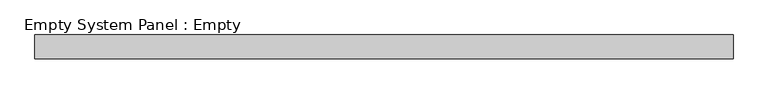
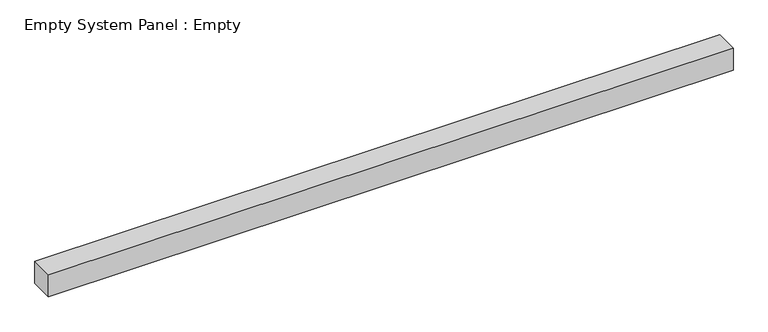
"""IFC4 building model written with IfcOpenShell, lengths in millimetres: plate geometry, Empty System Panel : Empty."""

import ifcopenshell
import ifcopenshell.guid

model = None  # the IFC model being written
_history = None  # IfcOwnerHistory: only IFC2X3 demands one
_inside = {}  # id of a spatial element -> (the spatial element, [elements in it])
_under = {}  # id of a project, library or spatial element -> (it, [spatial elements below it])
_declared = {}  # id of a project -> (the project, [libraries it declares])
_typed = {}  # id of a type object -> (the type object, [elements of that type])
_made_of = {}  # id of a material, layer set ... -> (it, [elements and type objects made of it])


def new_model(schema):
    """Start an empty IFC model of exactly this schema.

    Asked for "IFC4X3", IfcOpenShell would pick the latest addendum, in which some entities
    have other attributes; the version numbers below select the first issue.
    IFC2X3 requires an IfcOwnerHistory on every rooted entity: one is made here for all.
    """
    global model, _history
    if schema == "IFC4X3":
        model = ifcopenshell.file(schema_version=(4, 3, 0, 0))
    else:
        model = ifcopenshell.file(schema=schema)
    _inside.clear()
    _under.clear()
    _declared.clear()
    _typed.clear()
    _made_of.clear()
    _history = None
    if model.schema == "IFC2X3":
        org = make("IfcOrganization", Name="unknown")
        user = make(
            "IfcPersonAndOrganization",
            ThePerson=make("IfcPerson", FamilyName="unknown"),
            TheOrganization=org,
        )
        app = make(
            "IfcApplication",
            ApplicationDeveloper=org,
            Version="unknown",
            ApplicationFullName="unknown",
            ApplicationIdentifier="unknown",
        )
        _history = make(
            "IfcOwnerHistory",
            OwningUser=user,
            OwningApplication=app,
            ChangeAction="ADDED",
            CreationDate=0,
        )
    return model


def make(cls, **values):
    """One entity of the class cls with the attributes given. An attribute that is None is left unset."""
    return model.create_entity(
        cls, **{name: value for name, value in values.items() if value is not None}
    )


def rooted(cls, **values):
    """An entity with a GlobalId (a new one), such as an element, a storey or a relation."""
    return make(cls, GlobalId=ifcopenshell.guid.new(), OwnerHistory=_history, **values)


def si_unit(unit_type, name, prefix=None):
    """IfcSIUnit, for example si_unit("LENGTHUNIT", "METRE", prefix="MILLI")."""
    return make("IfcSIUnit", UnitType=unit_type, Prefix=prefix, Name=name)


def assignment(units):
    """IfcUnitAssignment: the units of a project."""
    return None if units is None else make("IfcUnitAssignment", Units=units)


def point(xyz):
    """IfcCartesianPoint."""
    return None if xyz is None else make("IfcCartesianPoint", Coordinates=xyz)


def direction(xyz):
    """IfcDirection."""
    return None if xyz is None else make("IfcDirection", DirectionRatios=xyz)


def frame(location, z_axis=None, x_axis=None):
    """IfcAxis2Placement3D, a coordinate frame: its origin and axes. An axis left out is left unset."""
    return make(
        "IfcAxis2Placement3D",
        Location=point(location),
        Axis=direction(z_axis),
        RefDirection=direction(x_axis),
    )


def origin():
    """The frame at (0, 0, 0) with its axes left unset."""
    return frame((0.0, 0.0, 0.0))


def origin_with_axes():
    """The frame at (0, 0, 0) with the z axis (0, 0, 1) and the x axis (1, 0, 0) written out."""
    return frame((0.0, 0.0, 0.0), z_axis=(0.0, 0.0, 1.0), x_axis=(1.0, 0.0, 0.0))


def place(relative_to, where):
    """IfcLocalPlacement: puts the frame where relative to a parent placement (None: the world)."""
    return make(
        "IfcLocalPlacement", PlacementRelTo=relative_to, RelativePlacement=where
    )


def context(
    kind, dimensions, precision=None, world=None, true_north=None, identifier=None
):
    """IfcGeometricRepresentationContext, for example the 3D "Model" context."""
    return make(
        "IfcGeometricRepresentationContext",
        ContextIdentifier=identifier,
        ContextType=kind,
        CoordinateSpaceDimension=dimensions,
        Precision=precision,
        WorldCoordinateSystem=world,
        TrueNorth=true_north,
    )


def project(units=None, contexts=None):
    """IfcProject with its units and contexts."""
    return rooted(
        "IfcProject",
        Name="project",
        RepresentationContexts=contexts,
        UnitsInContext=assignment(units),
    )


def spatial(cls, under=None, at=None, **own):
    """A site, building, storey or space (cls), placed at a placement, below another one or the project."""
    s = rooted(cls, ObjectPlacement=at, **own)
    if under is not None:
        _under.setdefault(under.id(), (under, []))[1].append(s)
    return s


def polyline(points):
    """IfcPolyline through the points."""
    return make("IfcPolyline", Points=[point(p) for p in points])


def outline(outer, holes=None, kind="AREA"):
    """IfcArbitraryClosedProfileDef: a profile drawn as a closed curve; with holes, ...WithVoids."""
    if holes is None:
        return make("IfcArbitraryClosedProfileDef", ProfileType=kind, OuterCurve=outer)
    return make(
        "IfcArbitraryProfileDefWithVoids",
        ProfileType=kind,
        OuterCurve=outer,
        InnerCurves=holes,
    )


def extrude(swept, where, along, depth):
    """IfcExtrudedAreaSolid: the profile swept, set in the frame where, extruded along a direction by depth."""
    return make(
        "IfcExtrudedAreaSolid",
        SweptArea=swept,
        Position=where,
        ExtrudedDirection=direction(along),
        Depth=depth,
    )


def shape(context_of_items, identifier, shape_type, items):
    """IfcShapeRepresentation: the items that make up one representation, for example the "Body"."""
    return make(
        "IfcShapeRepresentation",
        ContextOfItems=context_of_items,
        RepresentationIdentifier=identifier,
        RepresentationType=shape_type,
        Items=items,
    )


def source(mapping_origin, context_of_items, identifier, shape_type, items):
    """IfcRepresentationMap: a shape defined once, which mapped items show again and again."""
    return make(
        "IfcRepresentationMap",
        MappingOrigin=mapping_origin,
        MappedRepresentation=shape(context_of_items, identifier, shape_type, items),
    )


def transform(
    local_origin,
    x_axis=None,
    y_axis=None,
    z_axis=None,
    scale=None,
    scale2=None,
    scale3=None,
    uniform=True,
):
    """IfcCartesianTransformationOperator3D, or its non-uniform kind. x_axis, y_axis, z_axis: its Axis1, 2, 3."""
    if uniform:
        return make(
            "IfcCartesianTransformationOperator3D",
            Axis1=direction(x_axis),
            Axis2=direction(y_axis),
            LocalOrigin=point(local_origin),
            Scale=scale,
            Axis3=direction(z_axis),
        )
    return make(
        "IfcCartesianTransformationOperator3DnonUniform",
        Axis1=direction(x_axis),
        Axis2=direction(y_axis),
        LocalOrigin=point(local_origin),
        Scale=scale,
        Axis3=direction(z_axis),
        Scale2=scale2,
        Scale3=scale3,
    )


def mapped(mapping_source, mapping_target):
    """IfcMappedItem: shows the shape of a source again, moved by a transform."""
    return make(
        "IfcMappedItem", MappingSource=mapping_source, MappingTarget=mapping_target
    )


def made_of(thing, what):
    """Note that an element or type object is made of a material, layer set ...; save() writes the relation."""
    if what is not None:
        _made_of.setdefault(what.id(), (what, []))[1].append(thing)
    return thing


def element(
    cls,
    number,
    at=None,
    inside=None,
    cuts=None,
    type_object=None,
    material=None,
    context=None,
    identifier="Body",
    shape_type=None,
    held_by="IfcProductDefinitionShape",
    body=None,
    shapes=None,
    **own,
):
    """One element of the class cls, such as IfcWall. Its Tag is "e" and its number.

    at: its placement. inside: the storey or other place that contains it. cuts: it is an
    opening in that element (IfcRelVoidsElement). A single representation is given by context,
    identifier, shape_type and body (its items); several are given by shapes. held_by: the class
    of the entity that holds the representations. save() writes the other relations.
    """
    e = rooted(cls, Tag="e%d" % number, ObjectPlacement=at, **own)
    if body is not None:
        shapes = [shape(context, identifier, shape_type, body)]
    if shapes is not None:
        e.Representation = make(held_by, Representations=shapes)
    if inside is not None:
        _inside.setdefault(inside.id(), (inside, []))[1].append(e)
    if cuts is not None:
        rooted(
            "IfcRelVoidsElement", RelatingBuildingElement=cuts, RelatedOpeningElement=e
        )
    if type_object is not None:
        _typed.setdefault(type_object.id(), (type_object, []))[1].append(e)
    return made_of(e, material)


def aggregate(whole, parts):
    """IfcRelAggregates: a whole, such as a stair, and the parts it consists of."""
    return rooted("IfcRelAggregates", RelatingObject=whole, RelatedObjects=parts)


def save(model, path):
    """Write the relations noted so far, then the file.

    IfcRelAggregates (storeys below a building ...), IfcRelContainedInSpatialStructure (elements
    in a storey), IfcRelDefinesByType, IfcRelAssociatesMaterial and IfcRelDeclares: one each for
    every whole, place, type object, material and project.
    """
    for whole, parts in _under.values():
        aggregate(whole, parts)
    for where, things in _inside.values():
        rooted(
            "IfcRelContainedInSpatialStructure",
            RelatedElements=things,
            RelatingStructure=where,
        )
    for kind, things in _typed.values():
        rooted("IfcRelDefinesByType", RelatedObjects=things, RelatingType=kind)
    for what, things in _made_of.values():
        rooted("IfcRelAssociatesMaterial", RelatedObjects=things, RelatingMaterial=what)
    for by, libraries in _declared.values():
        rooted("IfcRelDeclares", RelatingContext=by, RelatedDefinitions=libraries)
    model.write(path)


def empty_system_panel_empty_2f01619b(model_context):
    return source(origin(), model_context, "Body", "SweptSolid", [
        extrude(outline(polyline([(1462.5, -50.0), (-1462.5, -50.0), (-1462.5, 50.0), (1462.5, 50.0), (1462.5, -50.0)])), origin_with_axes(), (0.0, 0.0, 1.0), 100.0),
    ])


if __name__ == "__main__":
    model = new_model("IFC4")
    model_context = context("Model", 3, world=origin())
    ifc_project = project(units=[si_unit("LENGTHUNIT", "METRE", prefix="MILLI")], contexts=[model_context])
    site = spatial("IfcSite", under=ifc_project)
    building = spatial("IfcBuilding", under=site)
    placement = place(None, origin())
    empty_system_panel_empty_shape = empty_system_panel_empty_2f01619b(model_context)
    element("IfcPlate", 1, ObjectType="Empty System Panel : Empty", at=placement, inside=building, context=model_context, shape_type="MappedRepresentation", body=[
        mapped(empty_system_panel_empty_shape, transform((0.0, 0.0, 0.0), x_axis=(1.0, 0.0, 0.0), y_axis=(0.0, 1.0, 0.0), z_axis=(0.0, 0.0, 1.0))),
    ])
    save(model, "model.ifc")
